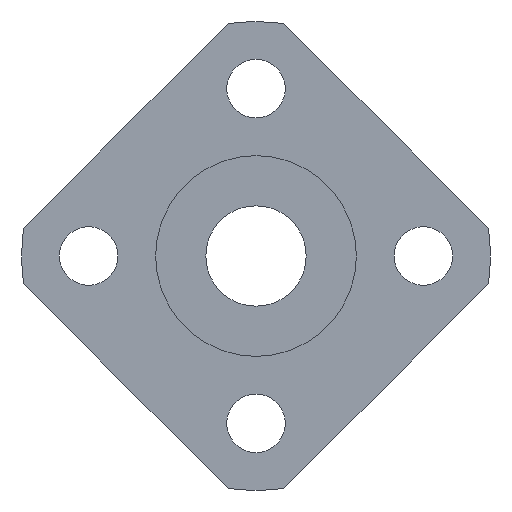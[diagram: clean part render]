
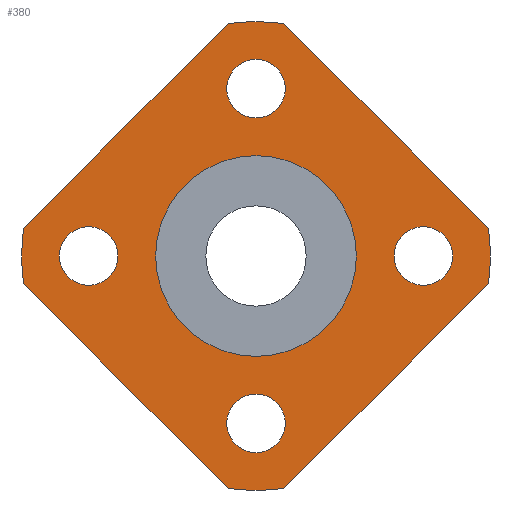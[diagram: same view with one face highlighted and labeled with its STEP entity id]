
A CAD part, left-side view. The second image highlights one B-rep face of the part: STEP entity #380.
In plain terms, the highlighted planar face has unit normal (-1, 0, 0).
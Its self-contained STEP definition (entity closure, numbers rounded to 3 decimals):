
#22=PLANE('',#433);
#41=LINE('',#644,#57);
#42=LINE('',#645,#58);
#43=LINE('',#646,#59);
#44=LINE('',#650,#60);
#57=VECTOR('',#522,1000.);
#58=VECTOR('',#523,1000.);
#59=VECTOR('',#524,1000.);
#60=VECTOR('',#527,1000.);
#94=ORIENTED_EDGE('',*,*,#176,.T.);
#95=ORIENTED_EDGE('',*,*,#155,.F.);
#96=ORIENTED_EDGE('',*,*,#177,.T.);
#97=ORIENTED_EDGE('',*,*,#159,.F.);
#98=ORIENTED_EDGE('',*,*,#178,.T.);
#99=ORIENTED_EDGE('',*,*,#179,.F.);
#100=ORIENTED_EDGE('',*,*,#180,.T.);
#101=ORIENTED_EDGE('',*,*,#153,.F.);
#102=ORIENTED_EDGE('',*,*,#181,.F.);
#103=ORIENTED_EDGE('',*,*,#182,.F.);
#104=ORIENTED_EDGE('',*,*,#183,.F.);
#105=ORIENTED_EDGE('',*,*,#184,.F.);
#106=ORIENTED_EDGE('',*,*,#164,.T.);
#153=EDGE_CURVE('',#197,#198,#232,.T.);
#155=EDGE_CURVE('',#199,#200,#233,.T.);
#159=EDGE_CURVE('',#203,#204,#235,.T.);
#164=EDGE_CURVE('',#208,#208,#238,.T.);
#176=EDGE_CURVE('',#197,#200,#41,.T.);
#177=EDGE_CURVE('',#199,#204,#42,.T.);
#178=EDGE_CURVE('',#203,#217,#43,.T.);
#179=EDGE_CURVE('',#218,#217,#246,.T.);
#180=EDGE_CURVE('',#218,#198,#44,.T.);
#181=EDGE_CURVE('',#219,#219,#247,.T.);
#182=EDGE_CURVE('',#220,#220,#248,.T.);
#183=EDGE_CURVE('',#221,#221,#249,.T.);
#184=EDGE_CURVE('',#222,#222,#250,.T.);
#197=VERTEX_POINT('',#594);
#198=VERTEX_POINT('',#596);
#199=VERTEX_POINT('',#600);
#200=VERTEX_POINT('',#601);
#203=VERTEX_POINT('',#609);
#204=VERTEX_POINT('',#610);
#208=VERTEX_POINT('',#620);
#217=VERTEX_POINT('',#647);
#218=VERTEX_POINT('',#649);
#219=VERTEX_POINT('',#652);
#220=VERTEX_POINT('',#654);
#221=VERTEX_POINT('',#656);
#222=VERTEX_POINT('',#658);
#232=CIRCLE('',#413,14.);
#233=CIRCLE('',#415,14.);
#235=CIRCLE('',#418,14.);
#238=CIRCLE('',#422,6.);
#246=CIRCLE('',#434,14.);
#247=CIRCLE('',#435,1.75);
#248=CIRCLE('',#436,1.75);
#249=CIRCLE('',#437,1.75);
#250=CIRCLE('',#438,1.75);
#274=EDGE_LOOP('',(#94,#95,#96,#97,#98,#99,#100,#101));
#275=EDGE_LOOP('',(#102));
#276=EDGE_LOOP('',(#103));
#277=EDGE_LOOP('',(#104));
#278=EDGE_LOOP('',(#105));
#279=EDGE_LOOP('',(#106));
#324=FACE_BOUND('',#274,.T.);
#325=FACE_BOUND('',#275,.T.);
#326=FACE_BOUND('',#276,.T.);
#327=FACE_BOUND('',#277,.T.);
#328=FACE_BOUND('',#278,.T.);
#329=FACE_BOUND('',#279,.T.);
#380=ADVANCED_FACE('',(#324,#325,#326,#327,#328,#329),#22,.F.);
#413=AXIS2_PLACEMENT_3D('',#595,#471,#472);
#415=AXIS2_PLACEMENT_3D('',#599,#476,#477);
#418=AXIS2_PLACEMENT_3D('',#608,#484,#485);
#422=AXIS2_PLACEMENT_3D('',#619,#494,#495);
#433=AXIS2_PLACEMENT_3D('',#643,#520,#521);
#434=AXIS2_PLACEMENT_3D('',#648,#525,#526);
#435=AXIS2_PLACEMENT_3D('',#651,#528,#529);
#436=AXIS2_PLACEMENT_3D('',#653,#530,#531);
#437=AXIS2_PLACEMENT_3D('',#655,#532,#533);
#438=AXIS2_PLACEMENT_3D('',#657,#534,#535);
#471=DIRECTION('',(1.,0.,0.));
#472=DIRECTION('',(0.,0.,-1.));
#476=DIRECTION('',(1.,0.,0.));
#477=DIRECTION('',(0.,0.,-1.));
#484=DIRECTION('',(1.,0.,0.));
#485=DIRECTION('',(0.,0.,-1.));
#494=DIRECTION('',(1.,0.,0.));
#495=DIRECTION('',(0.,0.,-1.));
#520=DIRECTION('',(1.,0.,0.));
#521=DIRECTION('',(0.,0.,-1.));
#522=DIRECTION('',(0.,0.707,0.707));
#523=DIRECTION('',(0.,0.707,-0.707));
#524=DIRECTION('',(0.,-0.707,-0.707));
#525=DIRECTION('',(1.,0.,0.));
#526=DIRECTION('',(0.,0.,-1.));
#527=DIRECTION('',(0.,-0.707,0.707));
#528=DIRECTION('',(-1.,0.,0.));
#529=DIRECTION('',(0.,0.,1.));
#530=DIRECTION('',(-1.,0.,0.));
#531=DIRECTION('',(0.,0.,1.));
#532=DIRECTION('',(-1.,0.,0.));
#533=DIRECTION('',(0.,0.,1.));
#534=DIRECTION('',(-1.,0.,0.));
#535=DIRECTION('',(0.,0.,1.));
#594=CARTESIAN_POINT('',(12.5,-13.902,1.654));
#595=CARTESIAN_POINT('',(12.5,0.,0.));
#596=CARTESIAN_POINT('',(12.5,-13.902,-1.654));
#599=CARTESIAN_POINT('',(12.5,0.,0.));
#600=CARTESIAN_POINT('',(12.5,1.654,13.902));
#601=CARTESIAN_POINT('',(12.5,-1.654,13.902));
#608=CARTESIAN_POINT('',(12.5,0.,0.));
#609=CARTESIAN_POINT('',(12.5,13.902,-1.654));
#610=CARTESIAN_POINT('',(12.5,13.902,1.654));
#619=CARTESIAN_POINT('',(12.5,0.,0.));
#620=CARTESIAN_POINT('',(12.5,0.,-6.));
#643=CARTESIAN_POINT('',(12.5,0.,0.));
#644=CARTESIAN_POINT('',(12.5,0.,15.556));
#645=CARTESIAN_POINT('',(12.5,15.556,0.));
#646=CARTESIAN_POINT('',(12.5,0.,-15.556));
#647=CARTESIAN_POINT('',(12.5,1.654,-13.902));
#648=CARTESIAN_POINT('',(12.5,0.,0.));
#649=CARTESIAN_POINT('',(12.5,-1.654,-13.902));
#650=CARTESIAN_POINT('',(12.5,-15.556,0.));
#651=CARTESIAN_POINT('',(12.5,0.,-10.));
#652=CARTESIAN_POINT('',(12.5,0.,-8.25));
#653=CARTESIAN_POINT('',(12.5,-10.,0.));
#654=CARTESIAN_POINT('',(12.5,-10.,1.75));
#655=CARTESIAN_POINT('',(12.5,0.,10.));
#656=CARTESIAN_POINT('',(12.5,0.,11.75));
#657=CARTESIAN_POINT('',(12.5,10.,0.));
#658=CARTESIAN_POINT('',(12.5,10.,1.75));
